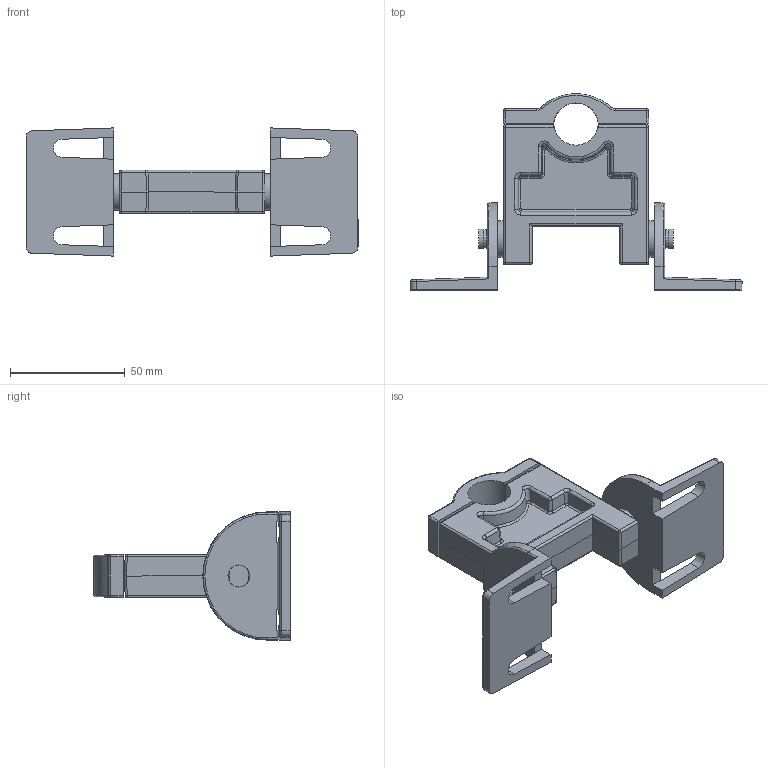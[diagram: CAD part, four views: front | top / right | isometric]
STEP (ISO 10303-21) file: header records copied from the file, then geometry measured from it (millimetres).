
FILE_DESCRIPTION(/* description */ ('Unknown'),/* implementation_level */ '2;1');
FILE_NAME(/* name */ 'LSAHC001',/* time_stamp */ '2024-08-12T10:26:04-04:00',/* author */ ('Unknown'),/* organization */ ('Unknown'),/* preprocessor_version */ 'ST-DEVELOPER v16.7',/* originating_system */ 'DEX',/* authorisation */ $);
FILE_SCHEMA (('AUTOMOTIVE_DESIGN {1 0 10303 214 3 1 1}'));
Length unit declared in the file: millimetre
Products named in the file (4): LSAHC001; MC2178C; MC2177B; M2179
Assembly tree (4 placements, depth 2):
  LSAHC001
    MC2178C
    MC2177B  x2
    M2179
Bounding box: 144.78 x 85.6 x 55.88 mm (x, y, z)
Volume: 80609.4 mm3; surface area: 34227.8 mm2
Topology: 4 solids, 4 shells, 281 faces, 687 edges, 396 vertices
Faces by surface type: cylinder 117, plane 86, bspline 42, sphere 20, cone 10, torus 6
Full cylindrical faces by diameter (mm): 5.367 x2, 7.874 x2, 15.875 x2
Entity records: 8992 total; most frequent: CARTESIAN_POINT 1884, DIRECTION 1248, ORIENTED_EDGE 1142, EDGE_CURVE 571, AXIS2_PLACEMENT_3D 486, VERTEX_POINT 338, FACE_BOUND 279, EDGE_LOOP 277
